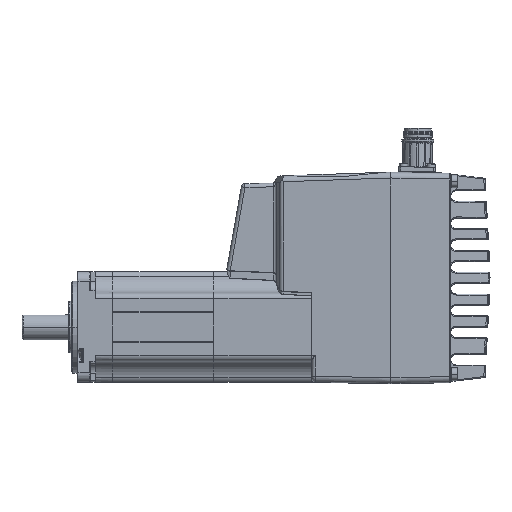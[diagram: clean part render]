
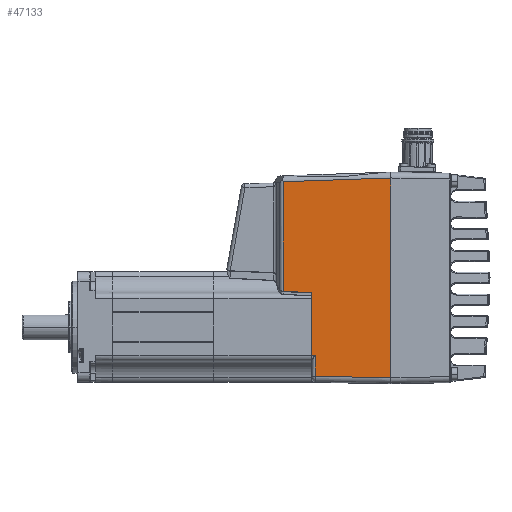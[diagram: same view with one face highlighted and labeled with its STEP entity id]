
A CAD part, top view. The second image highlights one B-rep face of the part: STEP entity #47133.
In plain terms, the highlighted planar face has unit normal (-0.035, 0, 0.999) as drawn and (0.999, 0, 0.035) by its records, which use the part's own axes.
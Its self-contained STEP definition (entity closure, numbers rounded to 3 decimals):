
#3212=CARTESIAN_POINT('',(29.458,-7.285,58.468));
#4046=DIRECTION('',(0.,1.,0.));
#4047=VECTOR('',#4046,108.598);
#4048=CARTESIAN_POINT('',(31.497,-54.3,
0.097));
#4049=LINE('',#4048,#4047);
#4446=DIRECTION('',(-0.035,0.017,0.999));
#4447=VECTOR('',#4446,40.954);
#4448=CARTESIAN_POINT('',(31.497,-54.3,
0.097));
#4449=LINE('',#4448,#4447);
#4453=CARTESIAN_POINT('',(30.002,-8.093,42.903));
#4454=CARTESIAN_POINT('',(29.84,-7.815,47.536));
#4455=CARTESIAN_POINT('',(29.658,-7.545,52.737));
#4456=CARTESIAN_POINT('',(29.458,-7.285,58.468));
#4461=DIRECTION('',(0.035,0.035,-0.999));
#4462=VECTOR('',#4461,58.442);
#4463=CARTESIAN_POINT('',(29.458,52.26,58.468));
#4464=LINE('',#4463,#4462);
#5254=DIRECTION('',(0.036,0.,-0.999));
#5255=VECTOR('',#5254,1.885);
#5256=CARTESIAN_POINT('',(30.001,-42.249,42.904));
#5257=LINE('',#5256,#5255);
#5296=DIRECTION('',(0.,-1.,0.));
#5297=VECTOR('',#5296,11.336);
#5298=CARTESIAN_POINT('',(30.068,-42.249,41.02));
#5299=LINE('',#5298,#5297);
#5501=DIRECTION('',(0.,-1.,0.));
#5502=VECTOR('',#5501,34.156);
#5503=CARTESIAN_POINT('',(30.002,-8.093,42.903));
#5504=LINE('',#5503,#5502);
#5860=DIRECTION('',(0.,-1.,0.));
#5861=VECTOR('',#5860,59.545);
#5862=CARTESIAN_POINT('',(29.458,52.26,58.468));
#5863=LINE('',#5862,#5861);
#37520=VERTEX_POINT('',#3212);
#37550=CARTESIAN_POINT('',(30.001,-42.249,
42.904));
#37552=VERTEX_POINT('',#37550);
#37556=CARTESIAN_POINT('',(30.068,-42.249,
41.02));
#37557=VERTEX_POINT('',#37556);
#37558=CARTESIAN_POINT('',(31.497,-54.3,
0.097));
#37559=CARTESIAN_POINT('',(30.068,-53.585,
41.02));
#37560=VERTEX_POINT('',#37558);
#37561=VERTEX_POINT('',#37559);
#37562=VERTEX_POINT('',#4453);
#37563=CARTESIAN_POINT('',(29.458,52.26,58.468));
#37564=CARTESIAN_POINT('',(31.496,54.299,
0.097));
#37565=VERTEX_POINT('',#37563);
#37566=VERTEX_POINT('',#37564);
#47113=CARTESIAN_POINT('',(30.477,-0.001,
29.282));
#47114=DIRECTION('',(0.999,0.,0.035));
#47115=DIRECTION('',(0.,-1.,0.));
#47116=AXIS2_PLACEMENT_3D('',#47113,#47114,#47115);
#47117=PLANE('',#47116);
#47119=ORIENTED_EDGE('',*,*,#47118,.T.);
#47121=ORIENTED_EDGE('',*,*,#47120,.F.);
#47123=ORIENTED_EDGE('',*,*,#47122,.F.);
#47125=ORIENTED_EDGE('',*,*,#47124,.F.);
#47126=ORIENTED_EDGE('',*,*,#46172,.T.);
#47128=ORIENTED_EDGE('',*,*,#47127,.F.);
#47129=ORIENTED_EDGE('',*,*,#47104,.T.);
#47130=ORIENTED_EDGE('',*,*,#46806,.F.);
#47131=EDGE_LOOP('',(#47119,#47121,#47123,#47125,#47126,#47128,#47129,#47130));
#47132=FACE_OUTER_BOUND('',#47131,.F.);
#4457=B_SPLINE_CURVE_WITH_KNOTS('',3,(#4453,#4454,#4455,#4456),.UNSPECIFIED.,
.F.,.F.,(4,4),(0.,1.),.UNSPECIFIED.);
#46172=EDGE_CURVE('',#37562,#37520,#4457,.T.);
#46806=EDGE_CURVE('',#37560,#37566,#4049,.T.);
#47104=EDGE_CURVE('',#37565,#37566,#4464,.T.);
#47118=EDGE_CURVE('',#37560,#37561,#4449,.T.);
#47120=EDGE_CURVE('',#37557,#37561,#5299,.T.);
#47122=EDGE_CURVE('',#37552,#37557,#5257,.T.);
#47124=EDGE_CURVE('',#37562,#37552,#5504,.T.);
#47127=EDGE_CURVE('',#37565,#37520,#5863,.T.);
#47133=ADVANCED_FACE('',(#47132),#47117,.T.);
